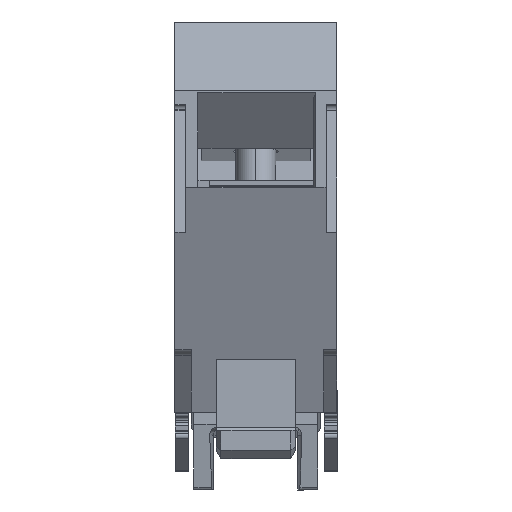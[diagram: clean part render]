
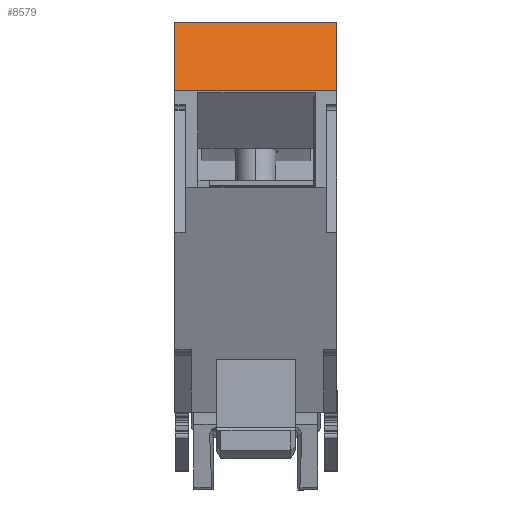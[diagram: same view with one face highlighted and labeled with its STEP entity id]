
A CAD part, front view. The second image highlights one B-rep face of the part: STEP entity #8579.
In plain terms, the highlighted planar face has unit normal (0, -0.94, 0.342) as drawn and (-0.94, -0.342, 0) by its records, which use the part's own axes.
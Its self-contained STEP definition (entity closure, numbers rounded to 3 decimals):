
#864 = CARTESIAN_POINT ( 'NONE',  ( -16., -19.479, 5.2 ) ) ;
#1163 = ORIENTED_EDGE ( 'NONE', *, *, #9200, .F. ) ;
#1350 = VERTEX_POINT ( 'NONE', #864 ) ;
#1628 = EDGE_LOOP ( 'NONE', ( #11143, #1163, #11616, #10217 ) ) ;
#1841 = CARTESIAN_POINT ( 'NONE',  ( -16., -19.479, 15. ) ) ;
#2823 = EDGE_CURVE ( 'NONE', #8115, #4667, #6632, .T. ) ;
#2907 = DIRECTION ( 'NONE',  ( 0.342, -0.94, 0. ) ) ;
#2961 = CARTESIAN_POINT ( 'NONE',  ( -16., -19.479, 5.2 ) ) ;
#3441 = DIRECTION ( 'NONE',  ( 0., 0., -1. ) ) ;
#3553 = FACE_OUTER_BOUND ( 'NONE', #1628, .T. ) ;
#3940 = EDGE_CURVE ( 'NONE', #1350, #8115, #11065, .T. ) ;
#4097 = VECTOR ( 'NONE', #11002, 1000. ) ;
#4621 = VECTOR ( 'NONE', #12372, 1000. ) ;
#4667 = VERTEX_POINT ( 'NONE', #7967 ) ;
#6375 = LINE ( 'NONE', #7526, #4621 ) ;
#6606 = AXIS2_PLACEMENT_3D ( 'NONE', #2961, #8765, #8583 ) ;
#6632 = LINE ( 'NONE', #1841, #8530 ) ;
#6859 = VERTEX_POINT ( 'NONE', #11509 ) ;
#7526 = CARTESIAN_POINT ( 'NONE',  ( -16., -19.479, 5.2 ) ) ;
#7967 = CARTESIAN_POINT ( 'NONE',  ( -14.5, -23.6, 15. ) ) ;
#8115 = VERTEX_POINT ( 'NONE', #8370 ) ;
#8370 = CARTESIAN_POINT ( 'NONE',  ( -16., -19.479, 15. ) ) ;
#8372 = CARTESIAN_POINT ( 'NONE',  ( -16., -19.479, 5.2 ) ) ;
#8530 = VECTOR ( 'NONE', #2907, 1000. ) ;
#8579 = ADVANCED_FACE ( 'NONE', ( #3553 ), #9535, .F. ) ;
#8583 = DIRECTION ( 'NONE',  ( 0., 0., -1. ) ) ;
#8765 = DIRECTION ( 'NONE',  ( 0.94, 0.342, 0. ) ) ;
#9200 = EDGE_CURVE ( 'NONE', #4667, #6859, #11137, .T. ) ;
#9535 = PLANE ( 'NONE',  #6606 ) ;
#10069 = EDGE_CURVE ( 'NONE', #6859, #1350, #6375, .T. ) ;
#10217 = ORIENTED_EDGE ( 'NONE', *, *, #3940, .F. ) ;
#10263 = CARTESIAN_POINT ( 'NONE',  ( -14.5, -23.6, 5.2 ) ) ;
#11002 = DIRECTION ( 'NONE',  ( 0., 0., 1. ) ) ;
#11065 = LINE ( 'NONE', #8372, #4097 ) ;
#11137 = LINE ( 'NONE', #10263, #11245 ) ;
#11143 = ORIENTED_EDGE ( 'NONE', *, *, #10069, .F. ) ;
#11245 = VECTOR ( 'NONE', #3441, 1000. ) ;
#11509 = CARTESIAN_POINT ( 'NONE',  ( -14.5, -23.6, 5.2 ) ) ;
#11616 = ORIENTED_EDGE ( 'NONE', *, *, #2823, .F. ) ;
#12372 = DIRECTION ( 'NONE',  ( -0.342, 0.94, 0. ) ) ;
